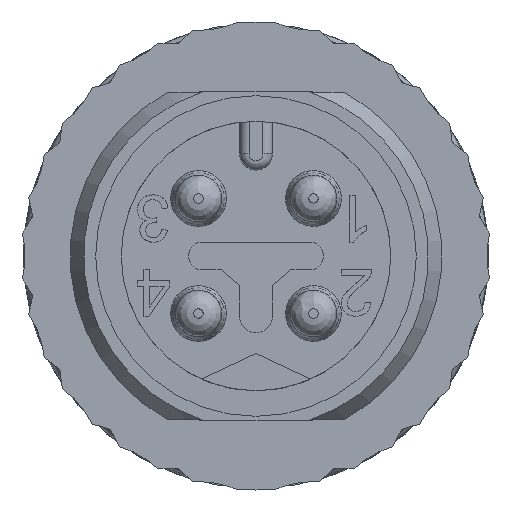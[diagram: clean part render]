
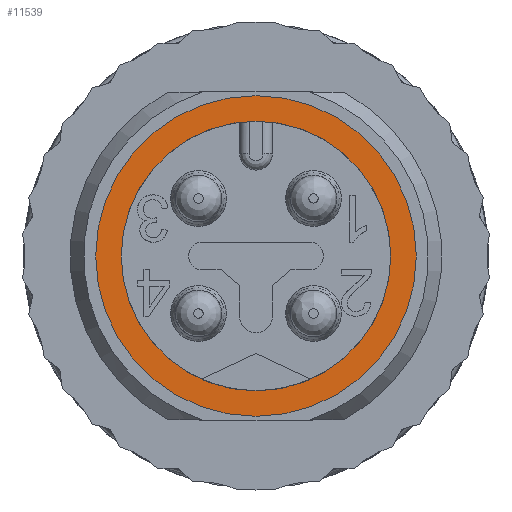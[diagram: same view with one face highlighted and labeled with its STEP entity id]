
A CAD part, front view. The second image highlights one B-rep face of the part: STEP entity #11539.
In plain terms, the highlighted planar face has unit normal (0, -1, 0).
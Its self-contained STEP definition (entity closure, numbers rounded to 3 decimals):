
#3146=FACE_BOUND('',#3958,.T.);
#3304=FACE_OUTER_BOUND('',#3957,.T.);
#3957=EDGE_LOOP('',(#8041));
#3958=EDGE_LOOP('',(#8042));
#4562=CIRCLE('',#12199,3.45);
#4564=CIRCLE('',#12202,2.9);
#4861=VERTEX_POINT('',#16694);
#4863=VERTEX_POINT('',#16699);
#6095=EDGE_CURVE('',#4861,#4861,#4562,.T.);
#6097=EDGE_CURVE('',#4863,#4863,#4564,.T.);
#8041=ORIENTED_EDGE('',*,*,#6095,.T.);
#8042=ORIENTED_EDGE('',*,*,#6097,.F.);
#10979=PLANE('',#12201);
#11539=ADVANCED_FACE('',(#3304,#3146),#10979,.T.);
#12199=AXIS2_PLACEMENT_3D('',#16695,#13243,#13244);
#12201=AXIS2_PLACEMENT_3D('',#16698,#13247,#13248);
#12202=AXIS2_PLACEMENT_3D('',#16700,#13249,#13250);
#13243=DIRECTION('center_axis',(0.,-1.,0.));
#13244=DIRECTION('ref_axis',(-1.,0.,0.));
#13247=DIRECTION('center_axis',(0.,-1.,0.));
#13248=DIRECTION('ref_axis',(0.,0.,1.));
#13249=DIRECTION('center_axis',(0.,-1.,0.));
#13250=DIRECTION('ref_axis',(-1.,0.,0.));
#16694=CARTESIAN_POINT('',(41.208,32.194,169.329));
#16695=CARTESIAN_POINT('Origin',(44.658,32.194,169.329));
#16698=CARTESIAN_POINT('Origin',(41.483,32.194,169.329));
#16699=CARTESIAN_POINT('',(41.758,32.194,169.329));
#16700=CARTESIAN_POINT('Origin',(44.658,32.194,169.329));
